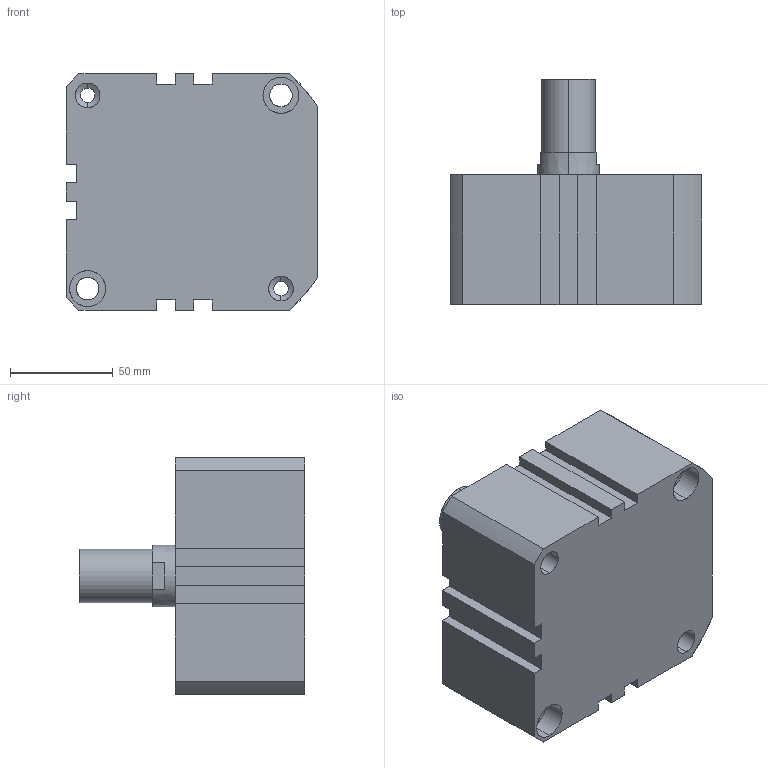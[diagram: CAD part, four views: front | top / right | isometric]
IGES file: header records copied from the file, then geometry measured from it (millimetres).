
Start section: SolidWorks IGES file using analytic representation for surfaces
Global section: file name: C:\Users\Toshiba\Desktop\XC#M2-100-10.IGS; native system: SolidWorks 2014; preprocessor: SolidWorks 2014; author: Toshiba; date: 160523.165140; units: millimetre
Bounding box: 122.5 x 109.5 x 115 mm (x, y, z)
Surface area: 75468.9 mm2 (no closed solid volume)
Topology: 0 solids, 0 shells, 110 faces, 1887 edges, 1883 vertices
Faces by surface type: revolution 63, bspline 47
